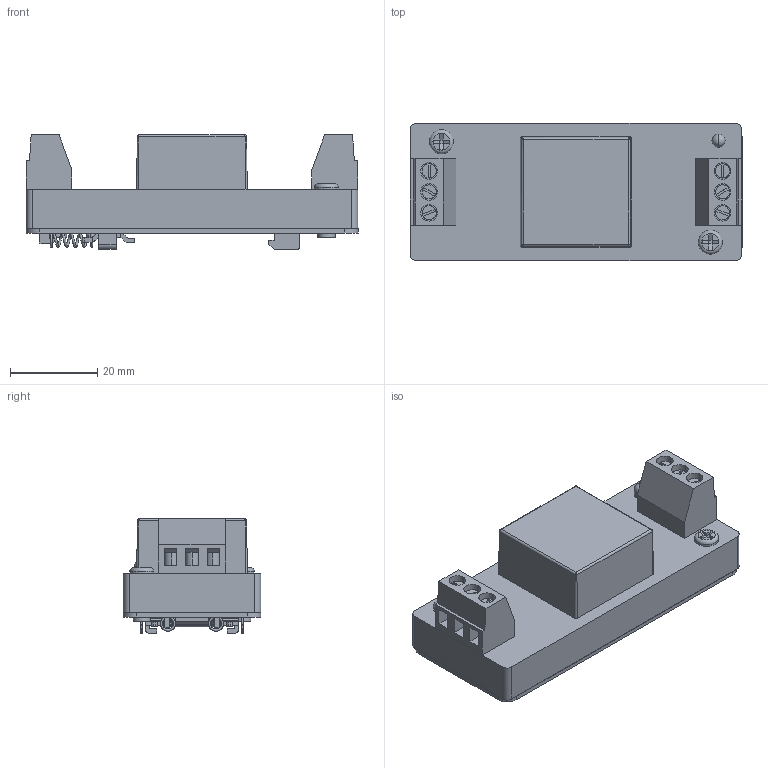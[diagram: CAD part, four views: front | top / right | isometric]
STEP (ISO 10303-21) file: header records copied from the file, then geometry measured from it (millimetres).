
FILE_DESCRIPTION(/* description */ (''),/* implementation_level */ '2;1');
FILE_NAME(/* name */ 'PFD30-XXSXXA3(R)2-(TS).stp',/* time_stamp */ '2025-09-09T10:23:56+08:00',/* author */ (''),/* organization */ (''),/* preprocessor_version */ 'ST-DEVELOPER v16',/* originating_system */ 'SIEMENS PLM Software NX 10.0',/* authorisation */ '123');
FILE_SCHEMA (('AUTOMOTIVE_DESIGN { 1 0 10303 214 3 1 1 1 }'));
Length unit declared in the file: millimetre
Products named in the file (1): admi9E78CA83aq20
Bounding box: 76.05 x 31.51 x 26.2 mm (x, y, z)
Volume: 34829.5 mm3; surface area: 19104.7 mm2
Topology: 22 solids, 22 shells, 464 faces, 1214 edges, 789 vertices
Faces by surface type: plane 283, cylinder 124, bspline 23, extrusion 16, sphere 8, torus 6, cone 4
Full cylindrical faces by diameter (mm): 1 x12, 3 x42, 3.995 x2, 5.5 x2
Entity records: 33424 total; most frequent: CARTESIAN_POINT 22524, ORIENTED_EDGE 2034, DIRECTION 1895, EDGE_CURVE 1017, VECTOR 695, LINE 679, VERTEX_POINT 673, AXIS2_PLACEMENT_3D 600
